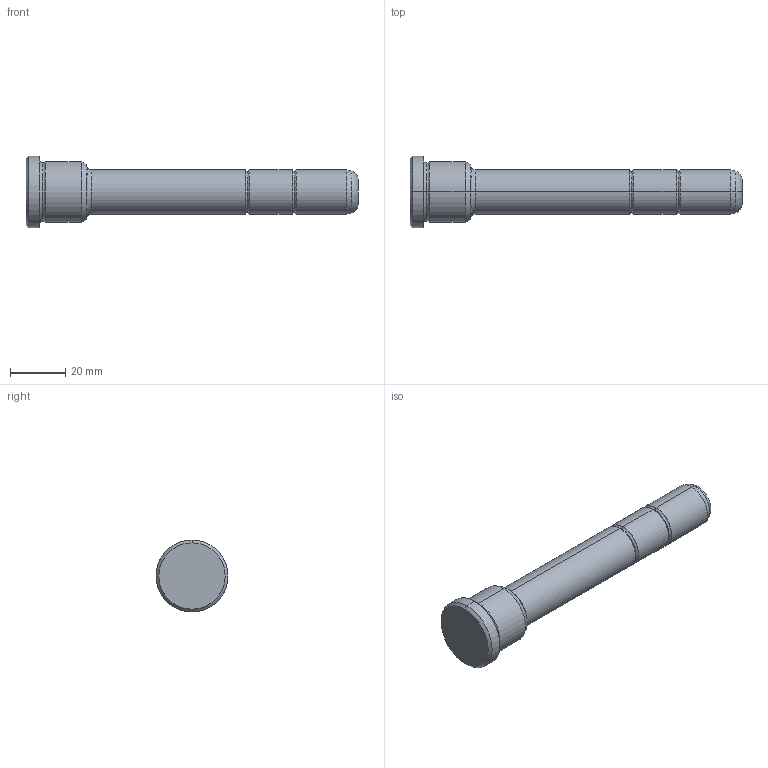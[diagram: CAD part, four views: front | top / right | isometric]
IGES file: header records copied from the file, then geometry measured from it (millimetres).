
Start section: START RECORD GO HERE.
Global section: file name: 351-16X22X120.igs; native system: DASSAULT SYSTEMES CATIA V5 R20 - www.3ds.com; preprocessor: CATIA Version 5 Release 20 ; author: Utente; organization: NB04-ASUS; date: 20210818.125604; units: millimetre
Bounding box: 120 x 26 x 26 mm (x, y, z)
Surface area: 7392.6 mm2 (no closed solid volume)
Topology: 0 solids, 0 shells, 36 faces, 204 edges, 204 vertices
Faces by surface type: revolution 32, plane 4
